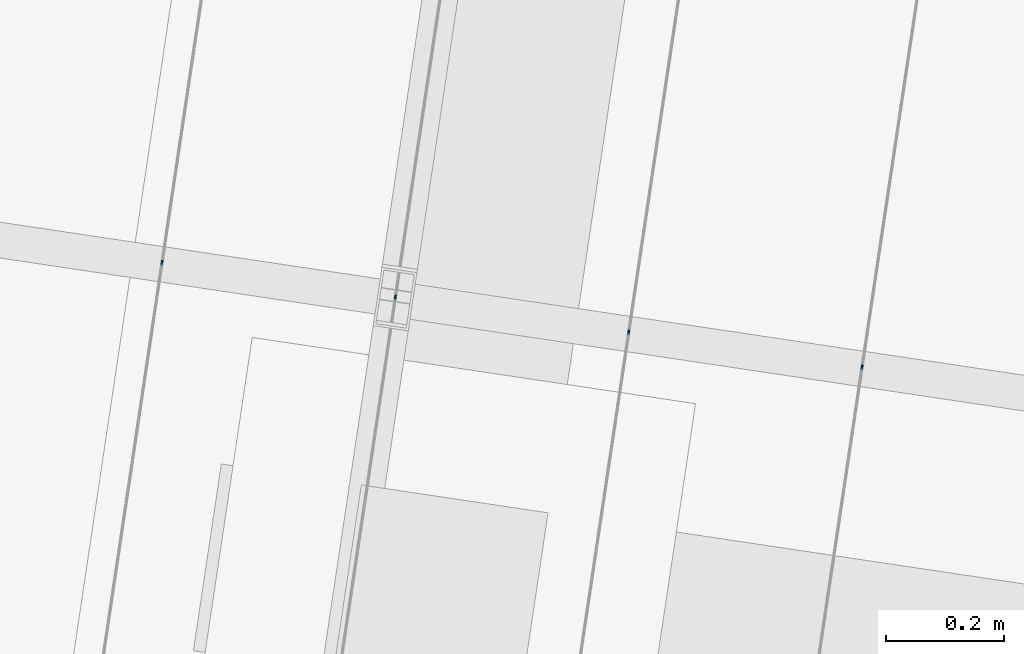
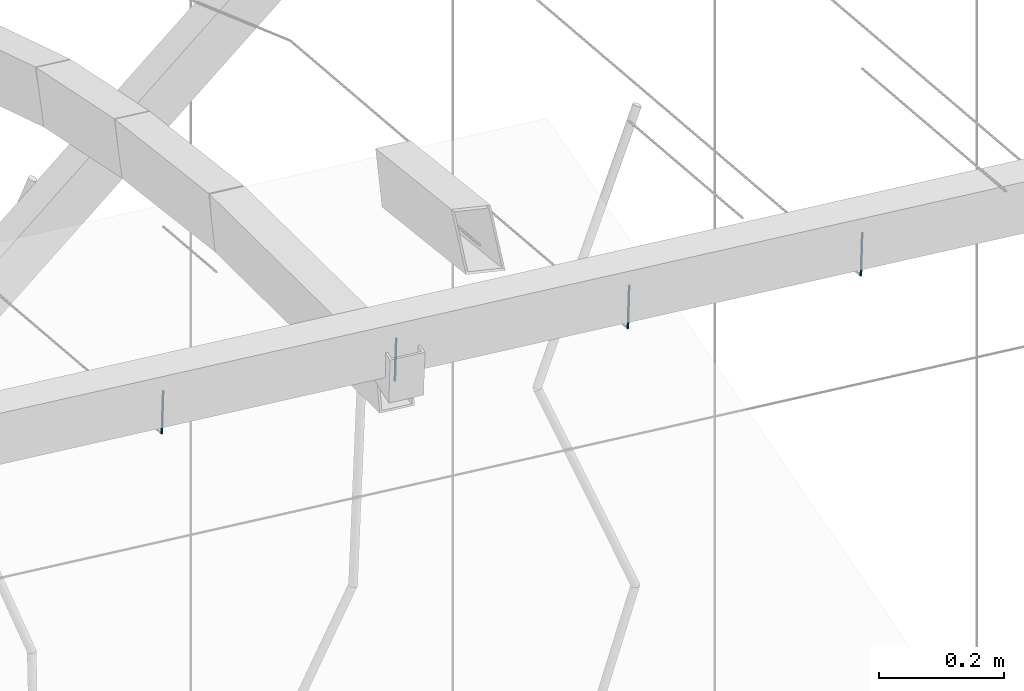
# One storey, part 132 of 142: 4 members, 1 element without a shape of its own.
"""IFC4 building model written with IfcOpenShell, lengths in metres."""

from ifc_helpers import new_model, si_unit, direction, frame, origin_with_axes, place, context, subcontext, project, spatial, circle, extrude, material, material_profile, profile_set, profile_usage, type_object, element, aggregate, save


model = new_model("IFC4")

# Units and contexts
model_context = context("Model", 3, precision=1e-05, world=origin_with_axes(), true_north=direction((0.0, 1.0)))
body_context = subcontext(model_context, "Body", "Model", "MODEL_VIEW")
ifc_project = project(units=[si_unit("LENGTHUNIT", "METRE"), si_unit("AREAUNIT", "SQUARE_METRE"), si_unit("VOLUMEUNIT", "CUBIC_METRE")], contexts=[model_context])

# Site, building, storey
site_placement = place(None, origin_with_axes())
site = spatial("IfcSite", under=ifc_project, at=site_placement, Name="Lares · Rua das Mercês · artigo 4771")
building_placement = place(site_placement, frame((15.0, 9.7, 14.65), z_axis=(0.0, 0.0, 1.0), x_axis=(0.989015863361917, -0.147809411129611, 0.0)))
building = spatial("IfcBuilding", under=site, at=building_placement, Name="Casa Sobreposta")
storey_placement = place(building_placement, origin_with_axes())
storey = spatial("IfcBuildingStorey", under=building, at=storey_placement, Name="00 · Habitação e estacionamento", Elevation=14.65)

# Assembly, members
assembly_placement = place(storey_placement, origin_with_axes())
assembly = element("IfcElementAssembly", 1, at=assembly_placement, inside=storey, Name="Pérgola · prolongamento da estufa 6 m", ObjectType="PERGOLA_GREENHOUSE_EXTENSION", PredefinedType="USERDEFINED")
ifc_material = material(Name="Aço galvanizado / Stahl verzinkt", Category="steel")
ifc_material_profile = material_profile(ifc_material, circle(Radius=0.002))
ifc_profile_set = profile_set([ifc_material_profile], Name="D0.004")
ifc_profile_usage_1 = profile_usage(ifc_profile_set)
member_type = type_object("IfcMemberType", Name="D0.004 / galvanized", PredefinedType="NOTDEFINED", material=ifc_profile_set)
member_1_placement = place(assembly_placement, frame((-3.4, 3.68002089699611, 7.30067689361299), z_axis=(0.0, 0.0651953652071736, -0.997872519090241), x_axis=(1.0, 0.0, 0.0)))
member_1 = element("IfcMember", 2, at=member_1_placement, type_object=member_type, material=ifc_profile_usage_1, Name="Pérgola · fio para trepadeiras", context=body_context, shape_type="SweptSolid", body=[
    extrude(circle(Radius=0.002), origin_with_axes(), (0.0, 0.0, 1.0), 0.0875840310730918),
])
ifc_profile_usage_2 = profile_usage(ifc_profile_set)
member_2_placement = place(assembly_placement, frame((-3.0, 3.68002089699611, 7.30067689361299), z_axis=(0.0, 0.0651953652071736, -0.997872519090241), x_axis=(1.0, 0.0, 0.0)))
member_2 = element("IfcMember", 3, at=member_2_placement, type_object=member_type, material=ifc_profile_usage_2, Name="Pérgola · fio para trepadeiras", context=body_context, shape_type="SweptSolid", body=[
    extrude(circle(Radius=0.002), origin_with_axes(), (0.0, 0.0, 1.0), 0.0875840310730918),
])
ifc_profile_usage_3 = profile_usage(ifc_profile_set)
member_3_placement = place(assembly_placement, frame((-2.6, 3.68002089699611, 7.30067689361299), z_axis=(0.0, 0.0651953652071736, -0.997872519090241), x_axis=(1.0, 0.0, 0.0)))
member_3 = element("IfcMember", 4, at=member_3_placement, type_object=member_type, material=ifc_profile_usage_3, Name="Pérgola · fio para trepadeiras", context=body_context, shape_type="SweptSolid", body=[
    extrude(circle(Radius=0.002), origin_with_axes(), (0.0, 0.0, 1.0), 0.0875840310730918),
])
ifc_profile_usage_4 = profile_usage(ifc_profile_set)
member_4_placement = place(assembly_placement, frame((-2.2, 3.68002089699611, 7.30067689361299), z_axis=(0.0, 0.0651953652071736, -0.997872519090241), x_axis=(1.0, 0.0, 0.0)))
member_4 = element("IfcMember", 5, at=member_4_placement, type_object=member_type, material=ifc_profile_usage_4, Name="Pérgola · fio para trepadeiras", context=body_context, shape_type="SweptSolid", body=[
    extrude(circle(Radius=0.002), origin_with_axes(), (0.0, 0.0, 1.0), 0.0875840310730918),
])
aggregate(assembly, [member_1, member_2, member_3, member_4])

save(model, "model.ifc")
